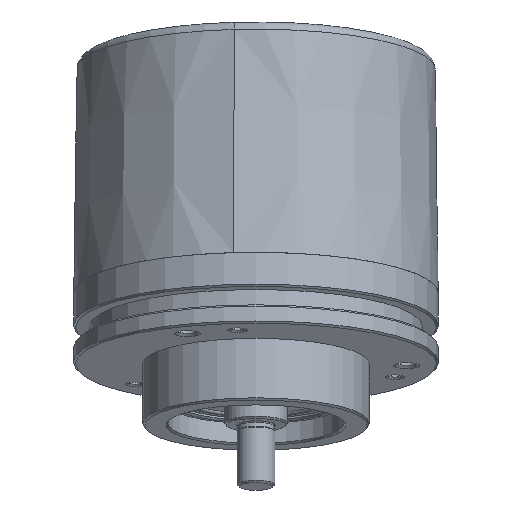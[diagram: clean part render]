
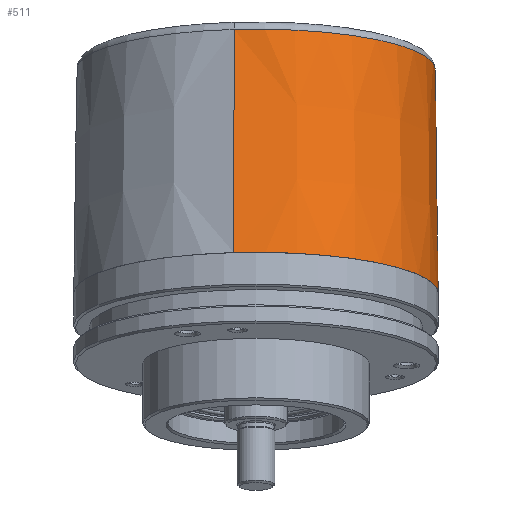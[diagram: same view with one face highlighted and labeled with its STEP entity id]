
A CAD part, top view. The second image highlights one B-rep face of the part: STEP entity #511.
In plain terms, the highlighted conical face has half-angle 0.75 degrees and reference radius 29 mm.
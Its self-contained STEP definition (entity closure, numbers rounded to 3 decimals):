
#348 = B_SPLINE_CURVE_WITH_KNOTS ( 'NONE', 3,
 ( #11186, #11193, #11218, #11219, #11220, #11221, #11222, #11223, #11224, #11225 ),
 .UNSPECIFIED., .F., .F.,
 ( 4, 3, 3, 4 ),
 ( 0., 0.003, 0.015, 0.024 ),
 .UNSPECIFIED. ) ;
#349 = B_SPLINE_CURVE_WITH_KNOTS ( 'NONE', 3,
 ( #11197, #11198, #11202, #11203, #11204, #11205, #11206, #11207, #11208, #11209, #11210, #11211, #11212, #11213, #11214, #11215 ),
 .UNSPECIFIED., .F., .F.,
 ( 4, 2, 2, 2, 2, 2, 2, 4 ),
 ( 0., 0.001, 0.001, 0.002, 0.003, 0.003, 0.004, 0.005 ),
 .UNSPECIFIED. ) ;
#511 = ADVANCED_FACE ( 'NONE', ( #7165 ), #7189, .T. ) ;
#1032 = DIRECTION ( 'NONE',  ( -0.122, 0.222, 0.968 ) ) ;
#1035 = DIRECTION ( 'NONE',  ( 0., -0.975, 0.223 ) ) ;
#1036 = CARTESIAN_POINT ( 'NONE',  ( 21., -7.311, 1.674 ) ) ;
#4912 = AXIS2_PLACEMENT_3D ( 'NONE', #11199, #11200, #11201 ) ;
#4987 = CARTESIAN_POINT ( 'NONE',  ( 24.518, -3.978, -28.485 ) ) ;
#5039 = CARTESIAN_POINT ( 'NONE',  ( 36.503, -3.018, -24.293 ) ) ;
#5581 = CARTESIAN_POINT ( 'NONE',  ( 17.524, 34.606, 21.118 ) ) ;
#5582 = CARTESIAN_POINT ( 'NONE',  ( 39.484, 23.439, -27.651 ) ) ;
#5615 = CARTESIAN_POINT ( 'NONE',  ( 24.534, -13.735, -26.384 ) ) ;
#5617 = CARTESIAN_POINT ( 'NONE',  ( 17.466, -0.886, 29.732 ) ) ;
#5659 = CARTESIAN_POINT ( 'NONE',  ( 39.473, 0.402, -22.799 ) ) ;
#6564 = CARTESIAN_POINT ( 'NONE',  ( 24.534, -13.735, -26.384 ) ) ;
#6592 = DIRECTION ( 'NONE',  ( 0.002, -0.978, 0.211 ) ) ;
#7165 = FACE_OUTER_BOUND ( 'NONE', #17840, .T. ) ;
#7189 = CONICAL_SURFACE ( 'NONE', #25363, 29., 0.013 ) ;
#8896 = LINE ( 'NONE', #10793, #8898 ) ;
#8898 = VECTOR ( 'NONE', #10794, 1000. ) ;
#10793 = CARTESIAN_POINT ( 'NONE',  ( 17.466, -0.886, 29.732 ) ) ;
#10794 = DIRECTION ( 'NONE',  ( -0.002, -0.972, 0.236 ) ) ;
#11186 = CARTESIAN_POINT ( 'NONE',  ( 39.473, 0.402, -22.799 ) ) ;
#11193 = CARTESIAN_POINT ( 'NONE',  ( 39.474, 1.38, -23.005 ) ) ;
#11197 = CARTESIAN_POINT ( 'NONE',  ( 39.473, 0.402, -22.799 ) ) ;
#11198 = CARTESIAN_POINT ( 'NONE',  ( 39.473, 0.185, -22.753 ) ) ;
#11199 = CARTESIAN_POINT ( 'NONE',  ( 21., -7.311, 1.674 ) ) ;
#11200 = DIRECTION ( 'NONE',  ( 0., 0.975, -0.223 ) ) ;
#11201 = DIRECTION ( 'NONE',  ( 0.122, -0.222, -0.968 ) ) ;
#11202 = CARTESIAN_POINT ( 'NONE',  ( 39.448, -0.036, -22.728 ) ) ;
#11203 = CARTESIAN_POINT ( 'NONE',  ( 39.355, -0.465, -22.716 ) ) ;
#11204 = CARTESIAN_POINT ( 'NONE',  ( 39.287, -0.674, -22.73 ) ) ;
#11205 = CARTESIAN_POINT ( 'NONE',  ( 39.113, -1.077, -22.789 ) ) ;
#11206 = CARTESIAN_POINT ( 'NONE',  ( 39.01, -1.264, -22.834 ) ) ;
#11207 = CARTESIAN_POINT ( 'NONE',  ( 38.777, -1.618, -22.947 ) ) ;
#11208 = CARTESIAN_POINT ( 'NONE',  ( 38.646, -1.784, -23.017 ) ) ;
#11209 = CARTESIAN_POINT ( 'NONE',  ( 38.368, -2.083, -23.17 ) ) ;
#11210 = CARTESIAN_POINT ( 'NONE',  ( 38.22, -2.217, -23.255 ) ) ;
#11211 = CARTESIAN_POINT ( 'NONE',  ( 37.909, -2.46, -23.437 ) ) ;
#11212 = CARTESIAN_POINT ( 'NONE',  ( 37.743, -2.568, -23.535 ) ) ;
#11213 = CARTESIAN_POINT ( 'NONE',  ( 37.231, -2.844, -23.844 ) ) ;
#11214 = CARTESIAN_POINT ( 'NONE',  ( 36.875, -2.965, -24.062 ) ) ;
#11215 = CARTESIAN_POINT ( 'NONE',  ( 36.503, -3.018, -24.293 ) ) ;
#11218 = CARTESIAN_POINT ( 'NONE',  ( 39.474, 2.359, -23.211 ) ) ;
#11219 = CARTESIAN_POINT ( 'NONE',  ( 39.475, 3.337, -23.417 ) ) ;
#11220 = CARTESIAN_POINT ( 'NONE',  ( 39.477, 7.251, -24.242 ) ) ;
#11221 = CARTESIAN_POINT ( 'NONE',  ( 39.478, 11.166, -25.066 ) ) ;
#11222 = CARTESIAN_POINT ( 'NONE',  ( 39.48, 15.08, -25.891 ) ) ;
#11223 = CARTESIAN_POINT ( 'NONE',  ( 39.482, 17.866, -26.477 ) ) ;
#11224 = CARTESIAN_POINT ( 'NONE',  ( 39.483, 20.653, -27.064 ) ) ;
#11225 = CARTESIAN_POINT ( 'NONE',  ( 39.484, 23.439, -27.651 ) ) ;
#11263 = CIRCLE ( 'NONE', #4912, 29. ) ;
#11426 = CIRCLE ( 'NONE', #12476, 28.522 ) ;
#11737 = CIRCLE ( 'NONE', #12654, 28.869 ) ;
#12476 = AXIS2_PLACEMENT_3D ( 'NONE', #13556, #13557, #13558 ) ;
#12654 = AXIS2_PLACEMENT_3D ( 'NONE', #14402, #14403, #14404 ) ;
#13556 = CARTESIAN_POINT ( 'NONE',  ( 21., 28.288, -6.477 ) ) ;
#13557 = DIRECTION ( 'NONE',  ( 0., -0.975, 0.223 ) ) ;
#13558 = DIRECTION ( 'NONE',  ( 0.122, -0.222, -0.968 ) ) ;
#14402 = CARTESIAN_POINT ( 'NONE',  ( 21., 2.418, -0.554 ) ) ;
#14403 = DIRECTION ( 'NONE',  ( 0., -0.975, 0.223 ) ) ;
#14404 = DIRECTION ( 'NONE',  ( 0.122, -0.222, -0.968 ) ) ;
#17840 = EDGE_LOOP ( 'NONE', ( #20022, #20023, #20024, #20025, #20026, #20027, #20028 ) ) ;
#20022 = ORIENTED_EDGE ( 'NONE', *, *, #21301, .F. ) ;
#20023 = ORIENTED_EDGE ( 'NONE', *, *, #24143, .T. ) ;
#20024 = ORIENTED_EDGE ( 'NONE', *, *, #23700, .F. ) ;
#20025 = ORIENTED_EDGE ( 'NONE', *, *, #23701, .T. ) ;
#20026 = ORIENTED_EDGE ( 'NONE', *, *, #23876, .T. ) ;
#20027 = ORIENTED_EDGE ( 'NONE', *, *, #23601, .T. ) ;
#20028 = ORIENTED_EDGE ( 'NONE', *, *, #23699, .T. ) ;
#20454 = VERTEX_POINT ( 'NONE', #4987 ) ;
#20506 = VERTEX_POINT ( 'NONE', #5039 ) ;
#21006 = VERTEX_POINT ( 'NONE', #5581 ) ;
#21007 = VERTEX_POINT ( 'NONE', #5582 ) ;
#21040 = VERTEX_POINT ( 'NONE', #5615 ) ;
#21042 = VERTEX_POINT ( 'NONE', #5617 ) ;
#21066 = VERTEX_POINT ( 'NONE', #5659 ) ;
#21301 = EDGE_CURVE ( 'NONE', #20454, #21040, #23214, .T. ) ;
#23214 = LINE ( 'NONE', #6564, #23216 ) ;
#23216 = VECTOR ( 'NONE', #6592, 1000. ) ;
#23601 = EDGE_CURVE ( 'NONE', #21006, #21042, #8896, .T. ) ;
#23699 = EDGE_CURVE ( 'NONE', #21042, #21040, #11263, .T. ) ;
#23700 = EDGE_CURVE ( 'NONE', #21066, #20506, #349, .T. ) ;
#23701 = EDGE_CURVE ( 'NONE', #21066, #21007, #348, .T. ) ;
#23876 = EDGE_CURVE ( 'NONE', #21007, #21006, #11426, .T. ) ;
#24143 = EDGE_CURVE ( 'NONE', #20454, #20506, #11737, .T. ) ;
#25363 = AXIS2_PLACEMENT_3D ( 'NONE', #1036, #1035, #1032 ) ;
